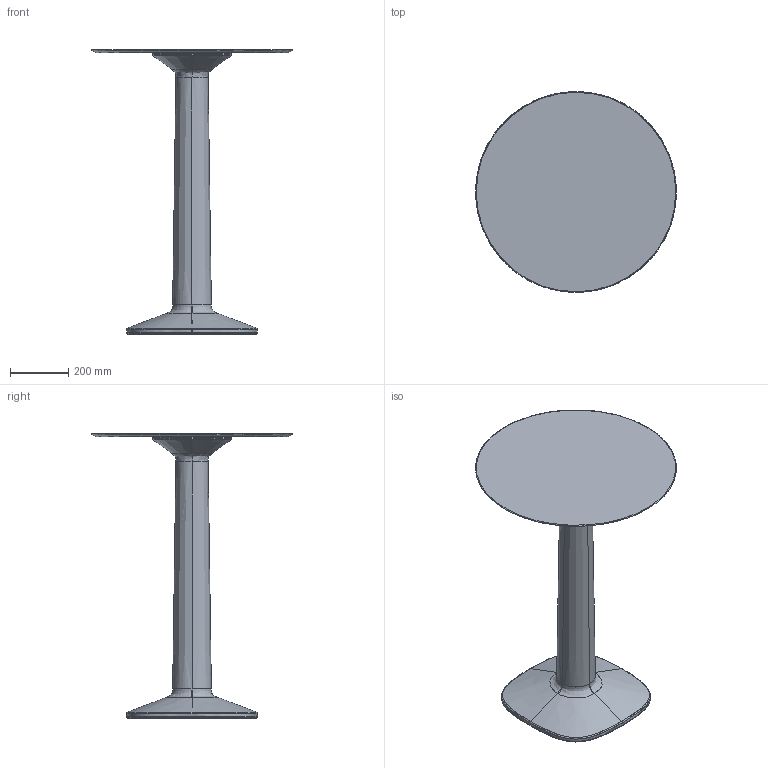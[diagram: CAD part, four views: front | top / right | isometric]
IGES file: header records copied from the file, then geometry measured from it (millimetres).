
Start section: START RECORD GO HERE.
Global section: file name: Tavolo-TOOL_con-PIANO-60.igs; native system: DASSAULT SYSTEMES CATIA Version 5-6 Release 2014 - www.3ds.com; preprocessor: V5-6R2014_5.24.5.0.02-24-2015.20.00; author: samatori; organization: DOMAIN; date: 20170413.150058; units: millimetre
Bounding box: 689.98 x 690 x 978.44 mm (x, y, z)
Surface area: 1635954.3 mm2 (no closed solid volume)
Topology: 0 solids, 0 shells, 198 faces, 883 edges, 883 vertices
Faces by surface type: bspline 153, revolution 32, plane 13
